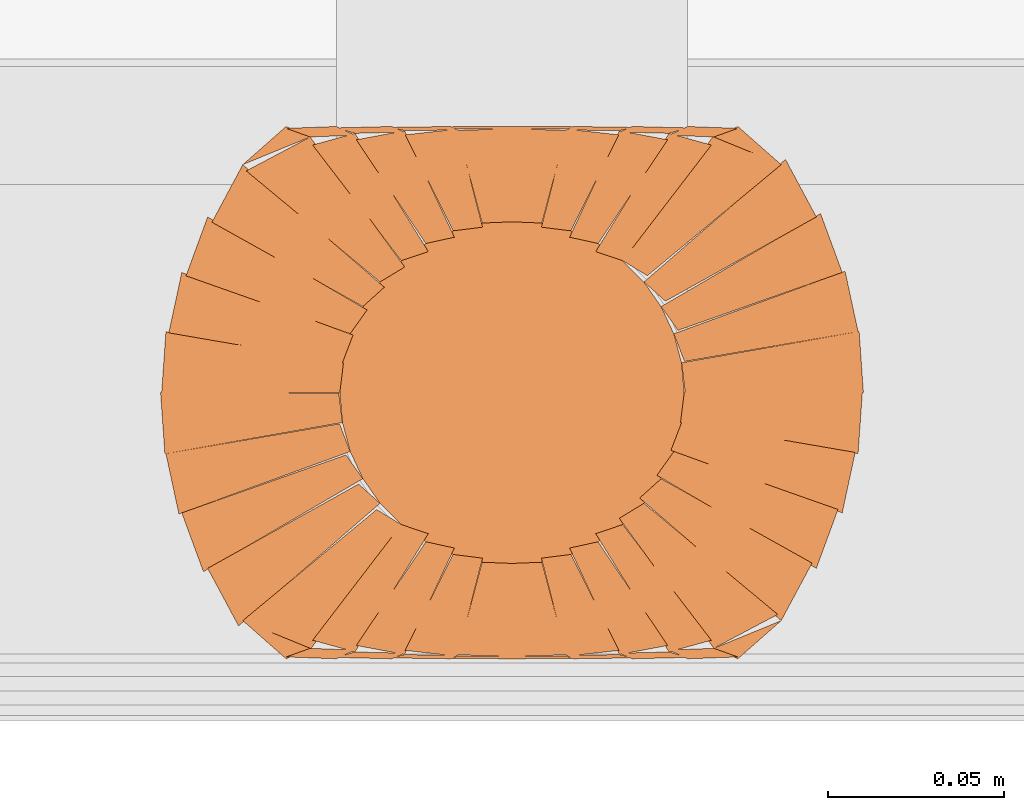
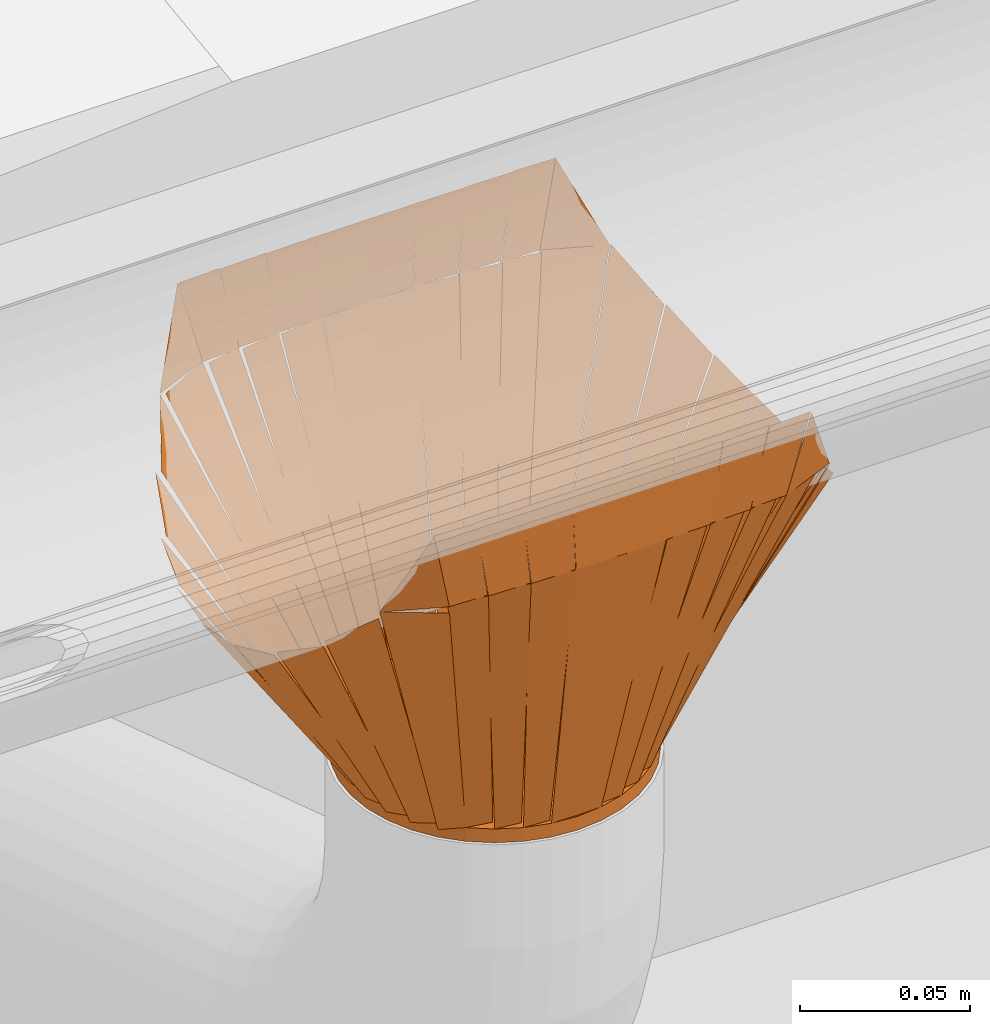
# One storey, part 25 of 43: 1 proxy.
"""IFC2X3 building model written with IfcOpenShell, lengths in millimetres."""

from ifc_helpers import new_model, si_unit, frame, origin_with_axes, place, context, project, spatial, faceted_brep, element, save


model = new_model("IFC2X3")

# Units and contexts
model_context = context("Model", 3, world=origin_with_axes())
ifc_project = project(units=[si_unit("LENGTHUNIT", "METRE", prefix="MILLI")], contexts=[model_context])

# Site, building, storey
site_placement = place(None, origin_with_axes())
site = spatial("IfcSite", under=ifc_project, at=site_placement, Name="Site", CompositionType="ELEMENT")
building_placement = place(site_placement, origin_with_axes())
building = spatial("IfcBuilding", under=site, at=building_placement, Name="?", CompositionType="ELEMENT")
storey_placement = place(building_placement, frame((0.0, 0.0, 5938.0), z_axis=(0.0, 0.0, 1.0), x_axis=(1.0, 0.0, 0.0)))
storey = spatial("IfcBuildingStorey", under=building, at=storey_placement, Name="Dachgeschoß", CompositionType="ELEMENT", Elevation=5938.0)

# Proxy
proxy_placement = place(None, origin_with_axes())
element("IfcBuildingElementProxy", 1, at=proxy_placement, inside=storey, Name="Dach03_Sump#001", ObjectType="sump", CompositionType="ELEMENT", context=model_context, shape_type="Brep", body=[
    faceted_brep([(4917.0, -7335.009765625, 6505.79443359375), (4967.69909783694, -7334.96774953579, 6580.93962337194), (4966.48080167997, -7352.37456599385, 6582.73663250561), (4915.95469623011, -7343.47654971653, 6505.99742441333), (4916.25537109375, -7343.51904296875, 6505.79443359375), (4965.66428588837, -7352.02260897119, 6583.29570176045), (4961.96907035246, -7369.21224305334, 6588.73663108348), (4913.22838624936, -7351.41680896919, 6506.3535043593), (4914.044921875, -7351.76904296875, 6505.79443359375), (4960.7674041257, -7368.25000875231, 6589.59595129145), (4954.6025228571, -7385.01004264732, 6599.73663675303), (4909.23330283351, -7358.54800840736, 6506.65374850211), (4910.43505859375, -7359.509765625, 6505.79443359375), (4953.39161468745, -7383.50609625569, 6600.66517917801), (4944.60426042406, -7399.88856568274, 6615.736631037), (4904.32531236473, -7365.00269628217, 6506.72298136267), (4905.5361328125, -7366.5068359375, 6505.79443359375), (4943.62805986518, -7398.11947794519, 6616.57727050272), (4925.42483265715, -7407.76293508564, 6615.73663044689), (4898.52025953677, -7370.77687912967, 6506.63507364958), (4899.49658203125, -7372.54638671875, 6505.79443359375), (4924.73842962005, -7405.47369281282, 6616.57347435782), (4912.66868210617, -7408.78708786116, 6615.73663420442), (4891.81352943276, -7375.15619170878, 6506.63127382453), (4892.5, -7377.4453125, 6505.79443359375), (4912.30450052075, -7406.96330484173, 6616.28910531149), (4898.55519984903, -7409.54171179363, 6615.7366356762), (4884.39480121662, -7379.2313055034, 6506.3469032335), (4884.7587890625, -7381.0546875, 6505.79443359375), (4898.42091446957, -7408.37303624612, 6616.04275099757), (4883.51308903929, -7410.00358695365, 6615.73663149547), (4876.37451405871, -7382.09703670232, 6506.10055309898), (4876.5087890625, -7383.265625, 6505.79443359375), (4883.4982433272, -7409.6022388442, 6615.83370153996), (4867.99998919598, -7410.1594249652, 6615.7366309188), (4867.98494357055, -7383.60843885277, 6505.89150420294), (4859.4912109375, -7383.265625, 6505.79443359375), (4868.01505642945, -7383.60843885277, 6505.89150420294), (4868.00001080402, -7410.1594249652, 6615.7366309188), (4852.5017566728, -7409.6022388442, 6615.83370153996), (4851.2412109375, -7381.0546875, 6505.79443359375), (4859.62548594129, -7382.09703670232, 6506.10055309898), (4852.48691096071, -7410.00358695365, 6615.73663149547), (4837.57908553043, -7408.37303624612, 6616.04275099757), (4843.5, -7377.4453125, 6505.79443359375), (4851.60519878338, -7379.2313055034, 6506.3469032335), (4837.44480015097, -7409.54171179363, 6615.73663567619), (4823.69549947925, -7406.96330484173, 6616.28910531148), (4836.50341796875, -7372.54638671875, 6505.79443359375), (4844.18647056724, -7375.15619170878, 6506.63127382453), (4823.33131789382, -7408.78708786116, 6615.73663420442), (4811.26157037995, -7405.47369281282, 6616.57347435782), (4836.50341796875, -7372.54638671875, 6505.79443359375), (4809.59884484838, -7409.53244267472, 6614.89599039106), (4791.39561764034, -7399.88898553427, 6615.73663044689), (4829.48754469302, -7368.27634352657, 6504.95379353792), (4830.4638671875, -7366.5068359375, 6505.79443359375), (4790.18491912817, -7401.39270533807, 6614.80808326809), (4781.39756486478, -7385.01023591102, 6599.73663140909), (4824.35412095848, -7361.01390528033, 6504.86588582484), (4825.56494140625, -7359.509765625, 6505.79443359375), (4780.19572138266, -7385.97179986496, 6598.87732184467), (4774.03084011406, -7369.21176596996, 6588.7366363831), (4820.75332236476, -7352.73080018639, 6504.93511868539), (4821.955078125, -7351.76904296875, 6505.79443359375), (4773.21438791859, -7369.56448226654, 6588.17755842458), (4769.51918082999, -7352.37494297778, 6582.73663496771), (4818.92808542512, -7343.87128188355, 6505.23535685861), (4819.74462890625, -7343.51904296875, 6505.79443359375), (4769.21852971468, -7352.41715820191, 6582.5336459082), (4768.00023044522, -7335.01024322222, 6580.73663465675), (4818.69932821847, -7335.0522587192, 6505.59144481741), (4819.0, -7335.009765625, 6505.79443359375), (4768.30089679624, -7335.0517809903, 6580.93961803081), (4769.51919943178, -7317.64496540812, 6582.73663139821), (4820.04529745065, -7326.54308088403, 6505.99742015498), (4819.74462890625, -7326.50146484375, 6505.79443359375), (4770.33573159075, -7317.99780535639, 6583.29571912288), (4774.03092877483, -7300.80816491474, 6588.7366358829), (4822.77163194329, -7318.60360535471, 6506.35351666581), (4821.955078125, -7318.2509765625, 6505.79443359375), (4775.23262029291, -7301.77001649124, 6589.59596421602), (4781.39737883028, -7285.00997522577, 6599.73663640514), (4826.76661936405, -7311.47201716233, 6506.65376173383), (4825.56494140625, -7310.509765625, 6505.79443359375), (4782.60837040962, -7286.5134274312, 6600.66517290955), (4791.3957423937, -7270.13106388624, 6615.73663441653), (4831.67476984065, -7305.01682850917, 6506.72297220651), (4830.4638671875, -7303.51318359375, 6505.79443359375), (4792.37183544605, -7271.90061803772, 6616.5772624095), (4810.57506735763, -7262.25708315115, 6615.7366306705), (4837.47973513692, -7299.24311841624, 6506.63506533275), (4836.50341796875, -7297.4736328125, 6505.79443359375), (4811.26146999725, -7264.54633724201, 6616.5734784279), (4823.33131784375, -7261.23293151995, 6615.73663476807), (4844.18647030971, -7294.86383842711, 6506.63127727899), (4843.5, -7292.57470703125, 6505.79443359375), (4823.69549947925, -7263.05671468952, 6616.28910531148), (4837.44480015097, -7260.47830773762, 6615.73663567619), (4851.60519878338, -7290.78871402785, 6506.3469032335), (4851.2412109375, -7288.96533203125, 6505.79443359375), (4837.57908553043, -7261.64698328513, 6616.04275099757), (4852.48691096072, -7260.0164325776, 6615.73663149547), (4859.62548594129, -7287.92298282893, 6506.10055309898), (4859.4912109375, -7286.75439453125, 6505.79443359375), (4852.5017566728, -7260.41778068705, 6615.83370153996), (4868.00001080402, -7259.86059456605, 6615.7366309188), (4868.01505642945, -7286.41158067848, 6505.89150420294), (4876.5087890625, -7286.75439453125, 6505.79443359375), (4867.9850433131, -7286.41158169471, 6505.89150445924), (4868.00008910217, -7259.86059390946, 6615.73663117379), (4883.49824324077, -7260.41778105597, 6615.83370203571), (4884.7587890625, -7288.96533203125, 6505.79443359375), (4876.3744153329, -7287.9229761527, 6506.10055124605), (4883.51298902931, -7260.01643257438, 6615.73663560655), (4898.42081592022, -7261.64697661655, 6616.04275325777), (4892.5, -7292.57470703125, 6505.79443359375), (4884.39481965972, -7290.78876123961, 6506.34688478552), (4898.55510018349, -7260.47840597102, 6615.73663578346), (4912.30442050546, -7263.05676005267, 6616.28908697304), (4899.49658203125, -7297.4736328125, 6505.79443359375), (4891.81350415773, -7294.86378505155, 6506.63129507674), (4912.66858208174, -7261.23293253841, 6615.73663264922), (4924.73840428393, -7264.5463849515, 6616.57349410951), (4899.49658203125, -7297.4736328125, 6505.79443359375), (4926.40115515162, -7260.48757685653, 6614.89599039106), (4944.60438235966, -7270.13103399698, 6615.73663044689), (4906.51245530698, -7301.74367600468, 6504.95379353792), (4905.5361328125, -7303.51318359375, 6505.79443359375), (4945.81508590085, -7268.6272951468, 6614.80807921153), (4954.60243226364, -7285.00968397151, 6599.73663630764), (4911.64588720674, -7309.00609461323, 6504.86587603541), (4910.43505859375, -7310.509765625, 6505.79443359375), (4955.80426663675, -7284.04764707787, 6598.87732511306), (4961.96905958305, -7300.80766642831, 6588.73663091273), (4915.24666570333, -7317.28874634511, 6504.93512814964), (4914.044921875, -7318.2509765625, 6505.79443359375), (4962.78552724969, -7300.45543169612, 6588.17755185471), (4966.48082378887, -7317.64507657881, 6582.73663560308), (4917.07192492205, -7326.14873100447, 6505.23534983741), (4916.25537109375, -7326.5009765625, 6505.79443359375), (4966.78147028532, -7317.60286132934, 6582.5336459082), (4967.99976955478, -7335.00977630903, 6580.73663465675), (4917.30067178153, -7334.96776081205, 6505.59144481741), (4925.4248046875, -7407.7626953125, 6615.736328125), (4944.60430531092, -7399.88879484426, 6615.736328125), (4932.27870485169, -7410.74999532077, 6645.00632737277), (4918.0, -7410.75, 6645.00634765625), (4912.64840950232, -7408.25130511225, 6615.78586307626), (4925.42489986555, -7407.76269994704, 6615.73634729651), (4932.25850914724, -7410.21440517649, 6645.05586343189), (4902.2021484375, -7410.75, 6645.00634765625), (4898.54533147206, -7409.14458950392, 6615.7593924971), (4912.66884830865, -7408.78689999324, 6615.7363475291), (4917.99013123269, -7410.35298953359, 6645.02939262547), (4885.36474609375, -7410.75, 6645.00634765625), (4883.50971180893, -7409.76003104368, 6615.74481863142), (4898.55514604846, -7409.54160002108, 6615.73634744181), (4902.19841174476, -7410.506231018, 6645.01481884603), (4868.0, -7410.75, 6645.00634765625), (4867.99961128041, -7410.0772640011, 6615.73823528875), (4883.51329980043, -7410.00380000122, 6615.73634736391), (4885.36441105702, -7410.66786399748, 6645.00823558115), (4852.48681640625, -7410.00390625, 6615.736328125), (4868.00050492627, -7410.07737024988, 6615.73821604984), (4868.00011620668, -7410.75010624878, 6645.00632841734), (4850.63570514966, -7410.66797024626, 6645.00821634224), (4837.44482421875, -7409.54150390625, 6615.736328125), (4852.49025845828, -7409.75993492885, 6615.74479931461), (4850.63522417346, -7410.74990388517, 6645.00632833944), (4833.80155852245, -7410.50613490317, 6645.01479952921), (4823.33154296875, -7408.787109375, 6615.736328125), (4837.45505980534, -7409.14479888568, 6615.75937309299), (4833.7982428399, -7410.75020938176, 6645.00632825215), (4818.01026004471, -7410.35319891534, 6645.02937322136), (4810.5751953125, -7407.7626953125, 6615.736328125), (4823.35168575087, -7408.25130223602, 6615.78584371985), (4818.00009521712, -7410.74999529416, 6645.00632838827), (4803.74168600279, -7410.21440225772, 6645.05584398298), (4791.3955078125, -7399.888671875, 6615.736328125), (4810.57500843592, -7407.76257234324, 6615.736328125), (4803.72120828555, -7410.74987219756, 6645.00632773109), (4810.5751953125, -7262.25732421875, 6615.736328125), (4791.39569539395, -7270.13132437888, 6615.736328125), (4803.72139542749, -7259.27002445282, 6645.00632830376), (4818.0, -7259.27001953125, 6645.00634765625), (4823.35159032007, -7261.76871232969, 6615.78586309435), (4810.57500017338, -7262.25731946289, 6615.73634755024), (4803.74149077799, -7259.80561239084, 6645.05586320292), (4833.7978515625, -7259.27001953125, 6645.00634765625), (4837.45466852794, -7260.87543002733, 6615.7593924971), (4823.33115169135, -7261.23311953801, 6615.7363475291), (4818.00986876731, -7259.66702999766, 6645.02939262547), (4850.63525390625, -7259.27001953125, 6645.00634765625), (4852.49038819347, -7260.25998782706, 6615.74481858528), (4837.44495394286, -7260.47841953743, 6615.73634741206), (4833.80168824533, -7259.51378783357, 6645.01481882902), (4868.0, -7259.27001953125, 6645.00634765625), (4868.00038871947, -7259.94275574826, 6615.73823528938), (4852.48670020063, -7260.01621952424, 6615.73634735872), (4850.63548894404, -7259.35215575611, 6645.00823558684), (4883.51318359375, -7260.01611328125, 6615.736328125), (4867.99959507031, -7259.94264953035, 6615.73821605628), (4867.99998379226, -7259.26991325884, 6645.00632842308), (4885.3643948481, -7259.35204951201, 6645.00821635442), (4898.55517578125, -7260.478515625, 6615.736328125), (4883.50974154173, -7260.26008460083, 6615.74479932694), (4885.36487582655, -7259.27011567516, 6645.00632839), (4902.19854147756, -7259.51388465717, 6645.01479959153), (4912.66845703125, -7261.23291015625, 6615.736328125), (4898.54494016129, -7260.87521945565, 6615.75937304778), (4902.20185713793, -7259.26981014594, 6645.00632834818), (4917.9897399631, -7259.66681942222, 6645.02937326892), (4925.4248046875, -7262.25732421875, 6615.736328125), (4912.64821454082, -7261.76871708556, 6615.7858436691), (4917.99980486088, -7259.27002428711, 6645.00632823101), (4932.25831408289, -7259.8056171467, 6645.05584377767), (4944.6044921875, -7270.13134765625, 6615.736328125), (4925.42499156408, -7262.25744718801, 6615.736328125), (4932.27879171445, -7259.27014733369, 6645.00632773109), (4917.0, -7335.009765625, 6500.82421875), (4917.0, -7335.009765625, 6505.79421875), (4916.25559997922, -7343.51856580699, 6505.79421875), (4916.25559997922, -7343.51856580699, 6500.82421875), (4916.25537109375, -7343.51904296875, 6500.82421875), (4916.25537109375, -7343.51904296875, 6505.79421875), (4914.04467119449, -7351.7692429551, 6505.79421875), (4914.04467119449, -7351.7692429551, 6500.82421875), (4914.044921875, -7351.76904296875, 6500.82421875), (4914.044921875, -7351.76904296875, 6505.79421875), (4910.43522182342, -7359.51004288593, 6505.79421875), (4910.43522182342, -7359.51004288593, 6500.82421875), (4910.43505859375, -7359.509765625, 6500.82421875), (4910.43505859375, -7359.509765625, 6505.79421875), (4905.53605848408, -7366.50636547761, 6505.79421875), (4905.53605848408, -7366.50636547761, 6500.82421875), (4905.5361328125, -7366.5068359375, 6500.82421875), (4905.5361328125, -7366.5068359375, 6505.79421875), (4899.49653291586, -7372.54643583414, 6505.79421875), (4899.49653291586, -7372.54643583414, 6500.82421875), (4899.49658203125, -7372.54638671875, 6500.82421875), (4899.49658203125, -7372.54638671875, 6505.79421875), (4892.49998217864, -7377.44538682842, 6505.79421875), (4892.49998217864, -7377.44538682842, 6500.82421875), (4892.5, -7377.4453125, 6500.82421875), (4892.5, -7377.4453125, 6505.79421875), (4884.75900008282, -7381.05501255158, 6505.79421875), (4884.75900008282, -7381.05501255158, 6500.82421875), (4884.7587890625, -7381.0546875, 6500.82421875), (4884.7587890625, -7381.0546875, 6505.79421875), (4876.50858907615, -7383.26538739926, 6505.79421875), (4876.50858907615, -7383.26538739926, 6500.82421875), (4876.5087890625, -7383.265625, 6500.82421875), (4876.5087890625, -7383.265625, 6505.79421875), (4867.99998888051, -7384.01002502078, 6505.79421875), (4867.99998888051, -7384.01002502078, 6500.82421875), (4868.0, -7384.009765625, 6500.82421875), (4868.0, -7384.009765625, 6505.79421875), (4859.491199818, -7383.26536560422, 6505.79421875), (4859.491199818, -7383.26536560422, 6500.82421875), (4859.4912109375, -7383.265625, 6500.82421875), (4859.4912109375, -7383.265625, 6505.79421875), (4851.24101095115, -7381.05492510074, 6505.79421875), (4851.24101095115, -7381.05492510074, 6500.82421875), (4851.2412109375, -7381.0546875, 6500.82421875), (4851.2412109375, -7381.0546875, 6505.79421875), (4843.50021102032, -7377.44498744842, 6505.79421875), (4843.50021102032, -7377.44498744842, 6500.82421875), (4843.5, -7377.4453125, 6500.82421875), (4843.5, -7377.4453125, 6505.79421875), (4836.50340014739, -7372.54631239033, 6505.79421875), (4836.50340014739, -7372.54631239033, 6500.82421875), (4836.50341796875, -7372.54638671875, 6500.82421875), (4836.50341796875, -7372.54638671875, 6505.79421875), (4830.46381807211, -7366.50678682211, 6505.79421875), (4830.46381807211, -7366.50678682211, 6500.82421875), (4830.4638671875, -7366.5068359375, 6500.82421875), (4830.4638671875, -7366.5068359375, 6505.79421875), (4825.56486707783, -7359.51023608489, 6505.79421875), (4825.56486707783, -7359.51023608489, 6500.82421875), (4825.56494140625, -7359.509765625, 6500.82421875), (4825.56494140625, -7359.509765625, 6505.79421875), (4821.95524135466, -7351.76876570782, 6505.79421875), (4821.95524135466, -7351.76876570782, 6500.82421875), (4821.955078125, -7351.76904296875, 6500.82421875), (4821.955078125, -7351.76904296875, 6505.79421875), (4819.74437822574, -7343.5188429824, 6505.79421875), (4819.74437822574, -7343.5188429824, 6500.82421875), (4819.74462890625, -7343.51904296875, 6500.82421875), (4819.74462890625, -7343.51904296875, 6505.79421875), (4819.00022888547, -7335.01024278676, 6505.79421875), (4819.00022888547, -7335.01024278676, 6500.82421875), (4819.0, -7335.009765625, 6500.82421875), (4819.0, -7335.009765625, 6505.79421875), (4819.74439999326, -7326.50106570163, 6505.79421875), (4819.74439999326, -7326.50106570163, 6500.82421875), (4819.74462890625, -7326.50146484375, 6500.82421875), (4819.74462890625, -7326.50146484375, 6505.79421875), (4821.95532886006, -7318.25116493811, 6505.79421875), (4821.95532886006, -7318.25116493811, 6500.82421875), (4821.955078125, -7318.2509765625, 6500.82421875), (4821.955078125, -7318.2509765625, 6505.79421875), (4825.56467809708, -7310.509976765, 6505.79421875), (4825.56467809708, -7310.509976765, 6500.82421875), (4825.56494140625, -7310.509765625, 6500.82421875), (4825.56494140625, -7310.509765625, 6505.79421875), (4830.46404161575, -7303.51316562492, 6505.79421875), (4830.46404161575, -7303.51316562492, 6500.82421875), (4830.4638671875, -7303.51318359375, 6500.82421875), (4830.4638671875, -7303.51318359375, 6505.79421875), (4836.50346708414, -7297.47358369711, 6505.79421875), (4836.50346708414, -7297.47358369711, 6500.82421875), (4836.50341796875, -7297.4736328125, 6500.82421875), (4836.50341796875, -7297.4736328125, 6505.79421875), (4843.50001782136, -7292.57463270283, 6505.79421875), (4843.50001782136, -7292.57463270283, 6500.82421875), (4843.5, -7292.57470703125, 6500.82421875), (4843.5, -7292.57470703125, 6505.79421875), (4851.24099991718, -7288.96500697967, 6505.79421875), (4851.24099991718, -7288.96500697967, 6500.82421875), (4851.2412109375, -7288.96533203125, 6500.82421875), (4851.2412109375, -7288.96533203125, 6505.79421875), (4859.49141092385, -7286.75463213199, 6505.79421875), (4859.49141092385, -7286.75463213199, 6500.82421875), (4859.4912109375, -7286.75439453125, 6500.82421875), (4859.4912109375, -7286.75439453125, 6505.79421875), (4868.00001111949, -7286.00999451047, 6505.79421875), (4868.00001111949, -7286.00999451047, 6500.82421875), (4868.0, -7286.009765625, 6500.82421875), (4868.0, -7286.009765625, 6505.79421875), (4876.50869992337, -7286.75416561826, 6505.79421875), (4876.50869992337, -7286.75416561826, 6500.82421875), (4876.5087890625, -7286.75439453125, 6500.82421875), (4876.50877656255, -7286.75444118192, 6505.79421874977), (4884.75908919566, -7288.96509455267, 6505.79421875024), (4884.75907669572, -7288.96504120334, 6500.82421874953), (4884.7587890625, -7288.96484375, 6500.82421875), (4884.75880821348, -7288.96490268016, 6505.79421875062), (4892.49978917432, -7292.57454363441, 6505.79421875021), (4892.49980832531, -7292.57450256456, 6500.82421875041), (4892.5, -7292.57470703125, 6500.82421875), (4892.5, -7292.57470703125, 6505.79421875), (4899.49660000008, -7297.47380724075, 6505.79421875), (4899.49660000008, -7297.47380724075, 6500.82421875), (4899.49658203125, -7297.4736328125, 6500.82421875), (4899.49658203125, -7297.4736328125, 6505.79421875), (4905.53618192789, -7303.51323270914, 6505.79421875), (4905.53618192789, -7303.51323270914, 6500.82421875), (4905.5361328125, -7303.51318359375, 6500.82421875), (4905.5361328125, -7303.51318359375, 6505.79421875), (4910.43513292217, -7310.50978344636, 6505.79421875), (4910.43513292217, -7310.50978344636, 6500.82421875), (4910.43505859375, -7310.509765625, 6500.82421875), (4910.43505859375, -7310.509765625, 6505.79421875), (4914.04475864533, -7318.25076554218, 6505.79421875), (4914.04475864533, -7318.25076554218, 6500.82421875), (4914.044921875, -7318.2509765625, 6500.82421875), (4914.044921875, -7318.2509765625, 6505.79421875), (4916.25562177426, -7326.50117654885, 6505.79421875), (4916.25562177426, -7326.50117654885, 6500.82421875), (4916.25537109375, -7326.5009765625, 6500.82421875), (4916.25537109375, -7326.5009765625, 6505.79421875), (4916.99977111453, -7335.00977674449, 6505.79421875), (4916.99977111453, -7335.00977674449, 6500.82421875), (4914.044921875, -7318.2509765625, 6500.82421875), (4917.000021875, -7335.0099765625, 6500.82421875), (4905.536221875, -7303.5133765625, 6500.82421875), (4910.435221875, -7310.5099765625, 6500.82421875), (4905.5361328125, -7303.51318359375, 6500.82421875), (4876.5086328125, -7286.75418359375, 6500.82421875), (4892.4999328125, -7292.57448359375, 6500.82421875), (4899.4965328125, -7297.47358359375, 6500.82421875), (4892.5, -7292.57470703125, 6500.82421875), (4876.5087, -7286.75440703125, 6500.82421875), (4884.759, -7288.96500703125, 6500.82421875), (4876.5087890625, -7286.75439453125, 6500.82421875), (4843.5000890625, -7292.57479453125, 6500.82421875), (4859.4912890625, -7286.75439453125, 6500.82421875), (4868.0000890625, -7286.00999453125, 6500.82421875), (4859.4912109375, -7286.75439453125, 6500.82421875), (4843.5000109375, -7292.57479453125, 6500.82421875), (4851.2410109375, -7288.96509453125, 6500.82421875), (4843.5, -7292.57470703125, 6500.82421875), (4821.9551, -7318.25090703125, 6500.82421875), (4830.4638, -7303.51330703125, 6500.82421875), (4836.5034, -7297.47370703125, 6500.82421875), (4830.4638671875, -7303.51318359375, 6500.82421875), (4821.9551671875, -7318.25078359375, 6500.82421875), (4825.5647671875, -7310.50978359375, 6500.82421875), (4876.5087890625, -7286.75439453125, 6500.82421875), (4905.5362890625, -7366.50659453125, 6500.82421875), (4821.9551890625, -7318.25099453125, 6500.82421875), (4843.5000890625, -7292.57479453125, 6500.82421875), (4821.955078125, -7318.2509765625, 6500.82421875), (4821.955078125, -7351.7689765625, 6500.82421875), (4818.999978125, -7335.0099765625, 6500.82421875), (4819.744378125, -7326.5012765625, 6500.82421875), (4819.0, -7335.009765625, 6500.82421875), (4821.9551, -7351.768765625, 6500.82421875), (4819.7444, -7343.518565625, 6500.82421875), (4821.955078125, -7351.76904296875, 6500.82421875), (4843.499978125, -7377.44524296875, 6500.82421875), (4830.463778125, -7366.50664296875, 6500.82421875), (4825.564778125, -7359.51004296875, 6500.82421875), (4830.4638671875, -7366.5068359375, 6500.82421875), (4843.5000671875, -7377.4454359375, 6500.82421875), (4836.5034671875, -7372.5464359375, 6500.82421875), (4821.955078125, -7318.2509765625, 6500.82421875), (4905.536178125, -7366.5065765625, 6500.82421875), (4843.499978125, -7377.4451765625, 6500.82421875), (4821.955078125, -7351.7689765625, 6500.82421875), (4843.5, -7377.4453125, 6500.82421875), (4876.5088, -7383.2657125, 6500.82421875), (4859.4912, -7383.2657125, 6500.82421875), (4851.241, -7381.0550125, 6500.82421875), (4859.4912109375, -7383.265625, 6500.82421875), (4876.5088109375, -7383.265625, 6500.82421875), (4868.0000109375, -7384.010025, 6500.82421875), (4876.5087890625, -7383.265625, 6500.82421875), (4905.5361890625, -7366.506625, 6500.82421875), (4892.4999890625, -7377.445225, 6500.82421875), (4884.7589890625, -7381.054925, 6500.82421875), (4892.5, -7377.4453125, 6500.82421875), (4905.5362, -7366.5067125, 6500.82421875), (4899.4966, -7372.5463125, 6500.82421875), (4843.5, -7377.4453125, 6500.82421875), (4905.5362, -7366.5067125, 6500.82421875), (4876.5088, -7383.2657125, 6500.82421875), (4905.5361328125, -7366.5068359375, 6500.82421875), (4916.9999328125, -7335.0102359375, 6500.82421875), (4914.0448328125, -7351.7692359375, 6500.82421875), (4910.4351328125, -7359.5102359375, 6500.82421875), (4914.044921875, -7351.76904296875, 6500.82421875), (4917.000021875, -7335.01004296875, 6500.82421875), (4916.255621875, -7343.51884296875, 6500.82421875), (4876.5087890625, -7286.75439453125, 6500.82421875), (4905.5362890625, -7303.51339453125, 6500.82421875), (4917.0000890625, -7335.00999453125, 6500.82421875), (4905.5362890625, -7366.50659453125, 6500.82421875), (4916.25537109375, -7326.5009765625, 6500.82421875), (4916.99977109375, -7335.0097765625, 6500.82421875), (4914.04467109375, -7318.2507765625, 6500.82421875), (4916.25537109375, -7343.51904296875, 6505.79443359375), (4916.25537109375, -7326.50144296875, 6505.79443359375), (4910.43497109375, -7359.51024296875, 6505.79443359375), (4914.04467109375, -7351.76924296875, 6505.79443359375), (4910.43505859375, -7359.509765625, 6505.79443359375), (4884.75885859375, -7381.054665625, 6505.79443359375), (4899.49645859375, -7372.545965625, 6505.79443359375), (4905.53605859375, -7366.506365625, 6505.79443359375), (4899.49658203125, -7372.54638671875, 6505.79443359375), (4884.75898203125, -7381.05508671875, 6505.79443359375), (4892.49998203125, -7377.44538671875, 6505.79443359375), (4884.7587890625, -7381.0546875, 6505.79443359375), (4851.2407890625, -7381.0546875, 6505.79443359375), (4867.9997890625, -7384.0097875, 6505.79443359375), (4876.5085890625, -7383.2653875, 6505.79443359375), (4868.0, -7384.009765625, 6505.79443359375), (4851.241, -7381.054665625, 6505.79443359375), (4859.4912, -7383.265365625, 6505.79443359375), (4851.2412109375, -7381.0546875, 6505.79443359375), (4825.5650109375, -7359.5097875, 6505.79443359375), (4836.5036109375, -7372.5459875, 6505.79443359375), (4843.5002109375, -7377.4449875, 6505.79443359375), (4836.50341796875, -7372.54638671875, 6505.79443359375), (4825.56481796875, -7359.51018671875, 6505.79443359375), (4830.46381796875, -7366.50678671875, 6505.79443359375), (4884.7587890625, -7381.0546875, 6505.79443359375), (4899.4963890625, -7297.4735875, 6505.79443359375), (4825.5645890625, -7359.5097875, 6505.79443359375), (4851.2407890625, -7381.0546875, 6505.79443359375), (4825.56494140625, -7359.509765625, 6505.79443359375), (4819.74454140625, -7326.501065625, 6505.79443359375), (4819.74454140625, -7343.518565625, 6505.79443359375), (4821.95524140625, -7351.768765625, 6505.79443359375), (4819.74462890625, -7343.51904296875, 6505.79443359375), (4819.74462890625, -7326.50154296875, 6505.79443359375), (4819.00022890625, -7335.01024296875, 6505.79443359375), (4819.74462890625, -7326.50146484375, 6505.79443359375), (4836.50362890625, -7297.47396484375, 6505.79443359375), (4825.56492890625, -7310.51016484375, 6505.79443359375), (4821.95532890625, -7318.25116484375, 6505.79443359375), (4825.56494140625, -7310.509765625, 6505.79443359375), (4836.50364140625, -7297.473565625, 6505.79443359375), (4830.46404140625, -7303.513165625, 6505.79443359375), (4825.56494140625, -7359.509765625, 6505.79443359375), (4899.49674140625, -7297.473565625, 6505.79443359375), (4836.50354140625, -7297.473565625, 6505.79443359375), (4819.74454140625, -7326.501065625, 6505.79443359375), (4836.50341796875, -7297.4736328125, 6505.79443359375), (4868.00001796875, -7286.0098328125, 6505.79443359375), (4851.24101796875, -7288.9649328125, 6505.79443359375), (4843.50001796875, -7292.5746328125, 6505.79443359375), (4851.2412109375, -7288.96533203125, 6505.79443359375), (4868.0002109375, -7286.01023203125, 6505.79443359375), (4859.4914109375, -7286.75463203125, 6505.79443359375), (4868.0, -7286.009765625, 6505.79443359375), (4899.4966, -7297.473565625, 6505.79443359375), (4884.759, -7288.964865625, 6505.79443359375), (4876.5087, -7286.754165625, 6505.79443359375), (4884.7587890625, -7288.96533203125, 6505.79443359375), (4899.4963890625, -7297.47403203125, 6505.79443359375), (4892.4997890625, -7292.57493203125, 6505.79443359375), (4836.50341796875, -7297.4736328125, 6505.79443359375), (4899.49661796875, -7297.4736328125, 6505.79443359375), (4868.00001796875, -7286.0098328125, 6505.79443359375), (4899.49658203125, -7297.4736328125, 6505.79443359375), (4916.25558203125, -7326.5010328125, 6505.79443359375), (4910.43518203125, -7310.5098328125, 6505.79443359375), (4905.53618203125, -7303.5132328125, 6505.79443359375), (4910.43505859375, -7310.509765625, 6505.79443359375), (4916.25545859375, -7326.500965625, 6505.79443359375), (4914.04475859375, -7318.250765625, 6505.79443359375), (4884.7587890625, -7381.0546875, 6505.79443359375), (4910.4349890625, -7359.5097875, 6505.79443359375), (4916.2553890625, -7326.5009875, 6505.79443359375), (4899.4963890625, -7297.4735875, 6505.79443359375), (4917.0, -7335.009765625, 6505.79443359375), (4916.2556, -7326.500965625, 6505.79443359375), (4916.2556, -7343.518565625, 6505.79443359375)], [[[0, 1, 2, 3]], [[4, 5, 6, 7]], [[8, 9, 10, 11]], [[12, 13, 14, 15]], [[16, 17, 18, 19]], [[20, 21, 22, 23]], [[24, 25, 26, 27]], [[28, 29, 30, 31]], [[32, 33, 34, 35]], [[36, 37, 38, 39]], [[40, 41, 42, 43]], [[44, 45, 46, 47]], [[48, 49, 50, 51]], [[52, 53, 54, 55]], [[56, 57, 58, 59]], [[60, 61, 62, 63]], [[64, 65, 66, 67]], [[68, 69, 70, 71]], [[72, 73, 74, 75]], [[76, 77, 78, 79]], [[80, 81, 82, 83]], [[84, 85, 86, 87]], [[88, 89, 90, 91]], [[92, 93, 94, 95]], [[96, 97, 98, 99]], [[100, 101, 102, 103]], [[104, 105, 106, 107]], [[108, 109, 110, 111]], [[112, 113, 114, 115]], [[116, 117, 118, 119]], [[120, 121, 122, 123]], [[124, 125, 126, 127]], [[128, 129, 130, 131]], [[132, 133, 134, 135]], [[136, 137, 138, 139]], [[140, 141, 142, 143]], [[144, 145, 146]], [[147, 148, 149, 150]], [[151, 152, 153, 154]], [[155, 156, 157, 158]], [[159, 160, 161, 162]], [[163, 164, 165, 166]], [[167, 168, 169, 170]], [[171, 172, 173, 174]], [[175, 176, 177, 178]], [[179, 180, 181]], [[182, 183, 184]], [[185, 186, 187, 188]], [[189, 190, 191, 192]], [[193, 194, 195, 196]], [[197, 198, 199, 200]], [[201, 202, 203, 204]], [[205, 206, 207, 208]], [[209, 210, 211, 212]], [[213, 214, 215, 216]], [[217, 218, 219]], [[220, 221, 222, 223]], [[224, 225, 226, 227]], [[228, 229, 230, 231]], [[232, 233, 234, 235]], [[236, 237, 238, 239]], [[240, 241, 242, 243]], [[244, 245, 246, 247]], [[248, 249, 250, 251]], [[252, 253, 254, 255]], [[256, 257, 258, 259]], [[260, 261, 262, 263]], [[264, 265, 266, 267]], [[268, 269, 270, 271]], [[272, 273, 274, 275]], [[276, 277, 278, 279]], [[280, 281, 282, 283]], [[284, 285, 286, 287]], [[288, 289, 290, 291]], [[292, 293, 294, 295]], [[296, 297, 298, 299]], [[300, 301, 302, 303]], [[304, 305, 306, 307]], [[308, 309, 310, 311]], [[312, 313, 314, 315]], [[316, 317, 318, 319]], [[320, 321, 322, 323]], [[324, 325, 326, 327]], [[328, 329, 330, 331]], [[332, 333, 334, 335]], [[336, 337, 338, 339]], [[340, 341, 342, 343]], [[344, 345, 346, 347]], [[348, 349, 350, 351]], [[352, 353, 354, 355]], [[356, 357, 358, 359]], [[360, 361, 362, 363]], [[364, 365, 366, 367]], [[368, 369, 370, 371]], [[372, 373, 374]], [[375, 376, 377, 378]], [[379, 380, 381]], [[382, 383, 384, 385]], [[386, 387, 388]], [[389, 390, 391, 392]], [[393, 394, 395, 396]], [[397, 398, 399]], [[400, 401, 402, 403]], [[404, 405, 406]], [[407, 408, 409, 410]], [[411, 412, 413, 414]], [[415, 416, 417]], [[418, 419, 420, 421]], [[422, 423, 424]], [[425, 426, 427]], [[428, 429, 430, 431]], [[432, 433, 434]], [[435, 436, 437, 438]], [[439, 440, 441]], [[442, 443, 444, 445]], [[446, 447, 448, 449]], [[450, 451, 452]], [[453, 454, 455, 456]], [[457, 458, 459]], [[460, 461, 462, 463]], [[464, 465, 466]], [[467, 468, 469, 470]], [[471, 472, 473, 474]], [[475, 476, 477]], [[478, 479, 480, 481]], [[482, 483, 484]], [[485, 486, 487, 488]], [[489, 490, 491, 492]], [[493, 494, 495]], [[496, 497, 498, 499]], [[500, 501, 502]], [[503, 504, 505]], [[506, 507, 508, 509]], [[510, 511, 512]], [[513, 514, 515, 516]], [[517, 518, 519]]]),
])

save(model, "model.ifc")
